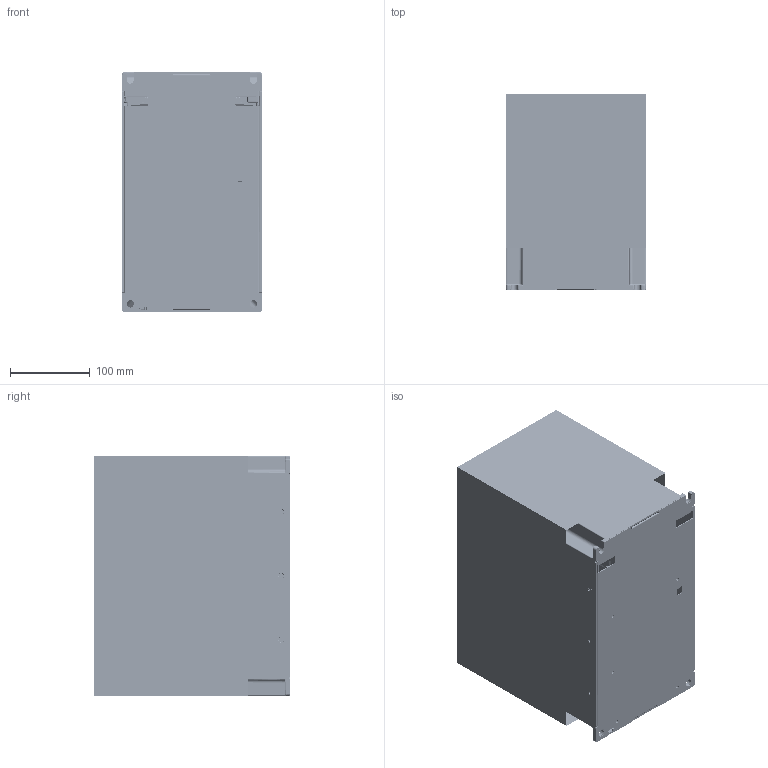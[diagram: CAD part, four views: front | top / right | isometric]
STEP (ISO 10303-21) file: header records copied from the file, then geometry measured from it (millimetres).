
FILE_DESCRIPTION((''),'2;1');
FILE_NAME('ASM0008_ASM_1_ASM','2023-12-28T14:05:07',('EDWARD.LIAO'),(''),'CREO PARAMETRIC BY PTC INC, 2022162','CREO PARAMETRIC BY PTC INC, 2022162','');
FILE_SCHEMA(('AUTOMOTIVE_DESIGN { 1 0 10303 214 1 1 1 1 }'));
Products named in the file (167): VFD-MS300-F2-PD-3D01_1_1; VFD-MS300-F2-PD-3D01_2_1; VFD-MS300-F2-PD-3D01_3_1; VFD-MS300-F2-PD-3D01_4_1; VFD-MS300-F2-PD-3D01_5_1; VFD-MS300-F2-PD-3D01_6_1; VFD-MS300-F2-PD-3D01_38_1; VFD-MS300-F2-PD-3D01_39_1; VFD-MS300-F2-PD-3D01_40_1; VFD-MS300-F2-PD-3D01_41_1; VFD-MS300-F2-PD-3D01_42_1; VFD-MS300-F2-PD-3D01_43_1; VFD-MS300-F2-PD-3D01_44_1; VFD-MS300-F2-PD-3D01_45_1; VFD-MS300-F2-PD-3D01_46_1; VFD-MS300-F2-PD-3D01_47_1; VFD-MS300-F2-PD-3D01_48_1; VFD-MS300-F2-PD-3D01_49_1; VFD-MS300-F2-PD-3D01_50_1; VFD-MS300-F2-PD-3D01_51_1; VFD-MS300-F2-PD-3D01_55_1; VFD-MS300-F2-PD-3D01_58_1; VFD-MS300-F2-PD-3D01_59_1; VFD-MS300-F2-PD-3D01_60_1; VFD-MS300-F2-PD-3D01_61_1; VFD-MS300-F2-PD-3D01_62_1; VFD-MS300-F2-PD-3D01_63_1; VFD-MS300-F2-PD-3D01_64_1; VFD-MS300-F2-PD-3D01_65_1; VFD-MS300-F2-PD-3D01_66_1; VFD-MS300-F2-PD-3D01_67_1; VFD-MS300-F2-PD-3D01_68_1; VFD-MS300-F2-PD-3D01_69_1; VFD-MS300-F2-PD-3D01_70_1; VFD-MS300-F2-PD-3D01_71_1; VFD-MS300-F2-PD-3D01_72_1; VFD-MS300-F2-PD-3D01_73_1; VFD-MS300-F2-PD-3D01_74_1; VFD-MS300-F2-PD-3D01_75_1; VFD-MS300-F2-PD-3D01_76_1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
Assembly tree (166 placements, depth 6):
  ASM0008_ASM_1_ASM
    VFD-MS300-F2-PD-3D01_1_1
    VFD-MS300-F2-PD-3D01_2_1
    VFD-MS300-F2-PD-3D01_3_1
    VFD-MS300-F2-PD-3D01_4_1
    VFD-MS300-F2-PD-3D01_5_1
    VFD-MS300-F2-PD-3D01_6_1
    VFD-MS300-F2-PD-3D01_38_1
    VFD-MS300-F2-PD-3D01_39_1
    VFD-MS300-F2-PD-3D01_40_1
    VFD-MS300-F2-PD-3D01_41_1
    VFD-MS300-F2-PD-3D01_42_1
    VFD-MS300-F2-PD-3D01_43_1
    VFD-MS300-F2-PD-3D01_44_1
    VFD-MS300-F2-PD-3D01_45_1
    VFD-MS300-F2-PD-3D01_46_1
    VFD-MS300-F2-PD-3D01_47_1
    VFD-MS300-F2-PD-3D01_48_1
    VFD-MS300-F2-PD-3D01_49_1
    VFD-MS300-F2-PD-3D01_50_1
    VFD-MS300-F2-PD-3D01_51_1
    VFD-MS300-F2-PD-3D01_55_1
    VFD-MS300-F2-PD-3D01_58_1
    VFD-MS300-F2-PD-3D01_59_1
    VFD-MS300-F2-PD-3D01_60_1
    VFD-MS300-F2-PD-3D01_61_1
    VFD-MS300-F2-PD-3D01_62_1
    VFD-MS300-F2-PD-3D01_63_1
    VFD-MS300-F2-PD-3D01_64_1
    VFD-MS300-F2-PD-3D01_65_1
    VFD-MS300-F2-PD-3D01_66_1
    VFD-MS300-F2-PD-3D01_67_1
    VFD-MS300-F2-PD-3D01_68_1
    VFD-MS300-F2-PD-3D01_69_1
    VFD-MS300-F2-PD-3D01_70_1
    VFD-MS300-F2-PD-3D01_71_1
    VFD-MS300-F2-PD-3D01_72_1
    VFD-MS300-F2-PD-3D01_73_1
    VFD-MS300-F2-PD-3D01_74_1
    VFD-MS300-F2-PD-3D01_75_1
    VFD-MS300-F2-PD-3D01_76_1
    VFD-MS300-F2-PD-3D01_77_1
    VFD-MS300-F2-PD-3D01_78_1
    VFD-MS300-F2-PD-3D01_79_1
    VFD-MS300-F2-PD-3D01_80_1
    VFD-MS300-F2-PD-3D01_81_1
    VFD-MS300-F2-PD-3D01_82_1
    VFD-MS300-F2-PD-3D01_83_1
    VFD-MS300-F2-PD-3D01_88_1
    VFD-MS300-F2-PD-3D01_89_1
    VFD-MS300-F2-PD-3D01_90_1
    VFD-MS300-F2-PD-3D01_92_1
    VFD-MS300-F2-PD-3D01_94_1
    VFD-MS300-F2-PD-3D01_95_1
    VFD-MS300-F2-PD-3D01_100_1
    CAD00046461
    MS-CTR_ASM
      CAD0000911465_ASM_1_1_2_ASM_1_ASM
        MS-CTR_2_1_1_2_1
        MS-CTR_3_1_1_2_1
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Bounding box: 175.3 x 245 x 300.3 mm (x, y, z)
Volume: 1076109.2 mm3; surface area: 1171387 mm2
Topology: 161 solids, 165 shells, 23911 faces, 65986 edges, 42652 vertices
Faces by surface type: plane 13200, cylinder 6377, bspline 1797, cone 1063, torus 785, extrusion 512, sphere 163, revolution 14
Entity records: 1062883 total; most frequent: CARTESIAN_POINT 281886, ORIENTED_EDGE 128196, DIRECTION 114809, EDGE_CURVE 64112, PRESENTATION_STYLE_ASSIGNMENT 50074, STYLED_ITEM 49941, CURVE_STYLE 49524, VECTOR 42954
